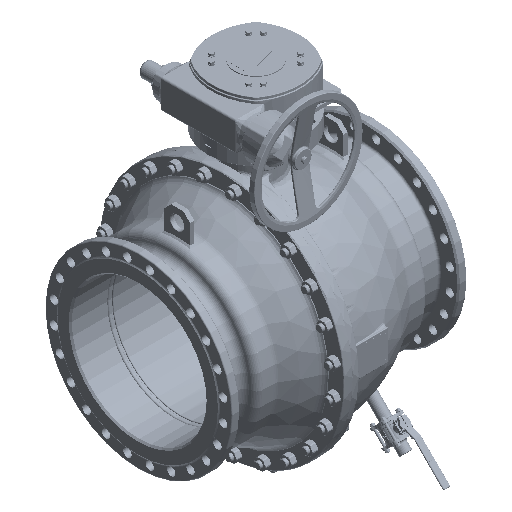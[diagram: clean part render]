
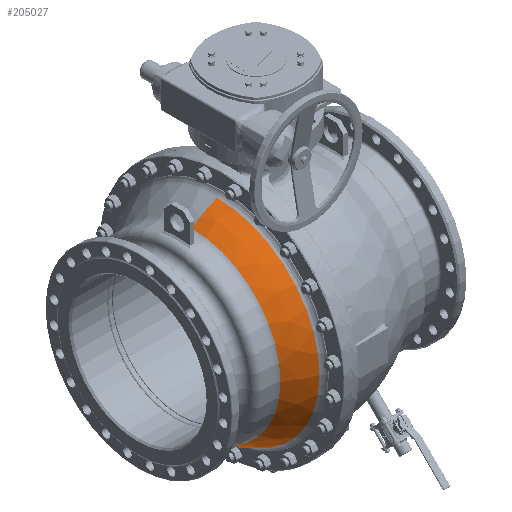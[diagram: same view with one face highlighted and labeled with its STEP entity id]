
A CAD part, isometric view. The second image highlights one B-rep face of the part: STEP entity #205027.
In plain terms, the highlighted spherical face has radius 635.5 mm.
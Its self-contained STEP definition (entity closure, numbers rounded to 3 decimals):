
#70214=CARTESIAN_POINT('',(-373.002,0.,0.));
#70215=DIRECTION('',(-1.,0.,0.));
#70216=DIRECTION('',(0.,0.,-1.));
#70217=AXIS2_PLACEMENT_3D('',#70214,#70215,#70216);
#70229=CARTESIAN_POINT('',(0.,0.,0.));
#70230=DIRECTION('',(0.,1.,0.));
#70231=DIRECTION('',(-0.587,0.,0.81));
#70232=AXIS2_PLACEMENT_3D('',#70229,#70230,#70231);
#70234=CARTESIAN_POINT('',(0.,0.,0.));
#70235=DIRECTION('',(0.,-1.,0.));
#70236=DIRECTION('',(-0.587,0.,-0.81));
#70237=AXIS2_PLACEMENT_3D('',#70234,#70235,#70236);
#70297=CARTESIAN_POINT('',(-225.788,0.,0.));
#70298=DIRECTION('',(-1.,0.,0.));
#70299=DIRECTION('',(0.,0.,-1.));
#70300=AXIS2_PLACEMENT_3D('',#70297,#70298,#70299);
#106547=CARTESIAN_POINT('',(-225.788,0.,
594.037));
#106548=CARTESIAN_POINT('',(-225.788,0.,-594.037));
#106549=VERTEX_POINT('',#106547);
#106550=VERTEX_POINT('',#106548);
#106551=CARTESIAN_POINT('',(-373.002,0.,
-514.519));
#106552=CARTESIAN_POINT('',(-373.002,0.,
514.519));
#106553=VERTEX_POINT('',#106551);
#106554=VERTEX_POINT('',#106552);
#205013=CARTESIAN_POINT('',(0.,0.,0.));
#205014=DIRECTION('',(-1.,0.,0.));
#205015=DIRECTION('',(0.,0.,-1.));
#205016=AXIS2_PLACEMENT_3D('',#205013,#205014,#205015);
#205017=SPHERICAL_SURFACE('',#205016,635.5);
#205018=ORIENTED_EDGE('',*,*,#205003,.T.);
#205020=ORIENTED_EDGE('',*,*,#205019,.T.);
#205022=ORIENTED_EDGE('',*,*,#205021,.F.);
#205024=ORIENTED_EDGE('',*,*,#205023,.F.);
#205025=EDGE_LOOP('',(#205018,#205020,#205022,#205024));
#205026=FACE_OUTER_BOUND('',#205025,.F.);
#205027=ADVANCED_FACE('',(#205026),#205017,.T.);
#70218=CIRCLE('',#70217,514.519);
#70233=CIRCLE('',#70232,635.5);
#70238=CIRCLE('',#70237,635.5);
#70301=CIRCLE('',#70300,594.037);
#205003=EDGE_CURVE('',#106553,#106554,#70218,.T.);
#205019=EDGE_CURVE('',#106554,#106549,#70233,.T.);
#205021=EDGE_CURVE('',#106550,#106549,#70301,.T.);
#205023=EDGE_CURVE('',#106553,#106550,#70238,.T.);
